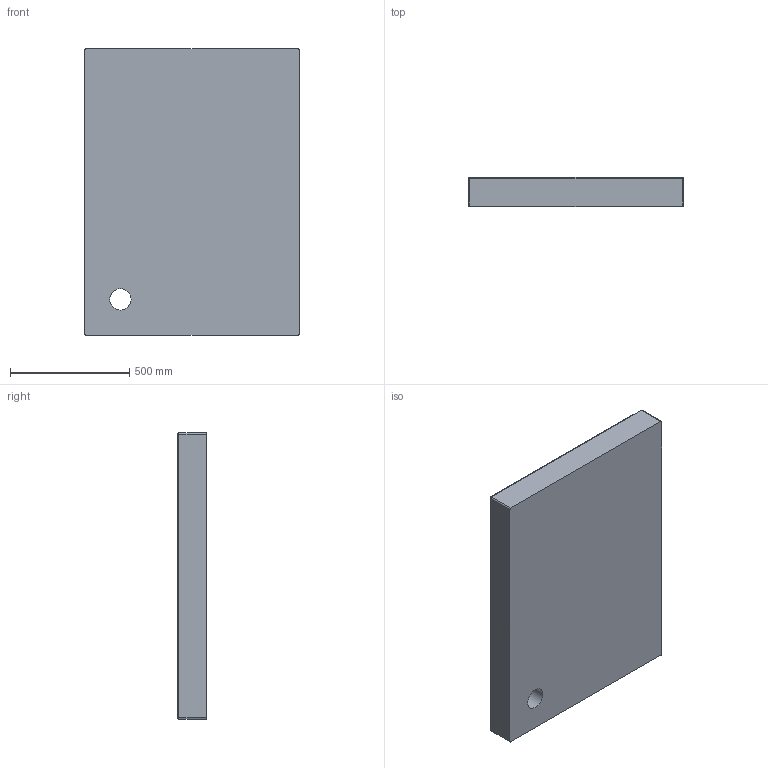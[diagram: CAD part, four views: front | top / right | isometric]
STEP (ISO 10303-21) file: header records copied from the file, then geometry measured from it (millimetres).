
FILE_DESCRIPTION(/* description */ (''),/* implementation_level */ '2;1');
FILE_NAME(/* name */ 'c:\worker\convert-fusion-r09\tmp\job-1\12\output\files\b683aba8-d70a-482b-902a-cb0e5f201386\ad7126dc-87b1-44ab-a402-cac657bade87.stp',/* time_stamp */ '2020-01-03T09:43:44+00:00',/* author */ (''),/* organization */ (''),/* preprocessor_version */ 'ST-DEVELOPER v18',/* originating_system */ 'Autodesk Translation Framework v8.12.0.6',/* authorisation */ '');
FILE_SCHEMA (('AUTOMOTIVE_DESIGN { 1 0 10303 214 3 1 1 }'));
Length unit declared in the file: millimetre
Products named in the file (1): Camden 90/120/P
Bounding box: 900 x 120 x 1200 mm (x, y, z)
Volume: 110760556.9 mm3; surface area: 2728404.5 mm2
Topology: 1 solids, 1 shells, 47 faces, 98 edges, 54 vertices
Faces by surface type: cylinder 21, plane 11, sphere 8, torus 4, bspline 3
Full cylindrical faces by diameter (mm): 90 x1
Entity records: 1796 total; most frequent: CARTESIAN_POINT 746, DIRECTION 230, ORIENTED_EDGE 198, EDGE_CURVE 99, AXIS2_PLACEMENT_3D 92, VERTEX_POINT 55, EDGE_LOOP 50, FACE_OUTER_BOUND 47
